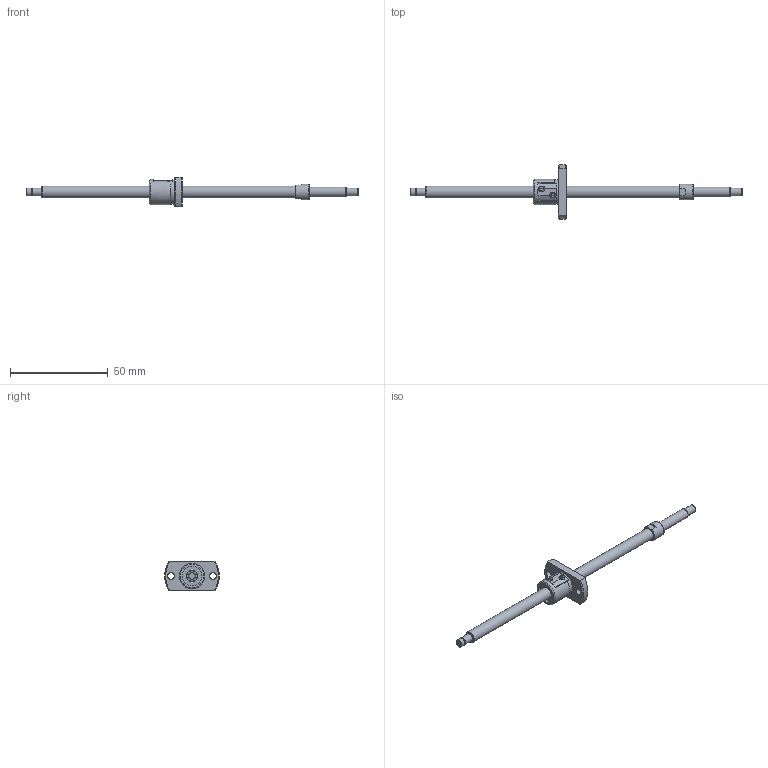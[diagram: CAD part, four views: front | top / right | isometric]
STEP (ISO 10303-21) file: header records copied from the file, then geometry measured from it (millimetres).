
FILE_DESCRIPTION(/* description */ ('STEP AP214'),/* implementation_level */ '2;1');
FILE_NAME(/* name */ 'SG0601-127R170C5B0X(55)',/* time_stamp */ '2026-07-20T20:13:44+02:00',/* author */ ('License CC BY-ND 4.0'),/* organization */ ('CADENAS'),/* preprocessor_version */ 'ST-DEVELOPER v20',/* originating_system */ 'PARTsolutions',/* authorisation */ ' ');
FILE_SCHEMA (('AUTOMOTIVE_DESIGN {1 0 10303 214 3 1 1}'));
Length unit declared in the file: millimetre
Products named in the file (3): SG0601-127R170C5B0X(55); SG0601-127R170C5B_shaft; SG0601 C5_nut
Assembly tree (2 placements, depth 2):
  SG0601-127R170C5B0X(55)
    SG0601-127R170C5B_shaft
    SG0601 C5_nut
Bounding box: 170 x 27.91 x 15 mm (x, y, z)
Volume: 7162 mm3; surface area: 5178.3 mm2
Topology: 2 solids, 2 shells, 78 faces, 185 edges, 122 vertices
Faces by surface type: plane 37, cylinder 26, cone 14, torus 1
Full cylindrical faces by diameter (mm): 3.4 x2, 3.7 x1, 4 x3, 5 x1, 6 x2, 8 x1, 10 x2, 12.6 x1, 13 x1
Entity records: 2167 total; most frequent: CARTESIAN_POINT 403, DIRECTION 368, ORIENTED_EDGE 300, AXIS2_PLACEMENT_3D 155, EDGE_CURVE 150, EDGE_LOOP 120, FACE_BOUND 120, VERTEX_POINT 112
